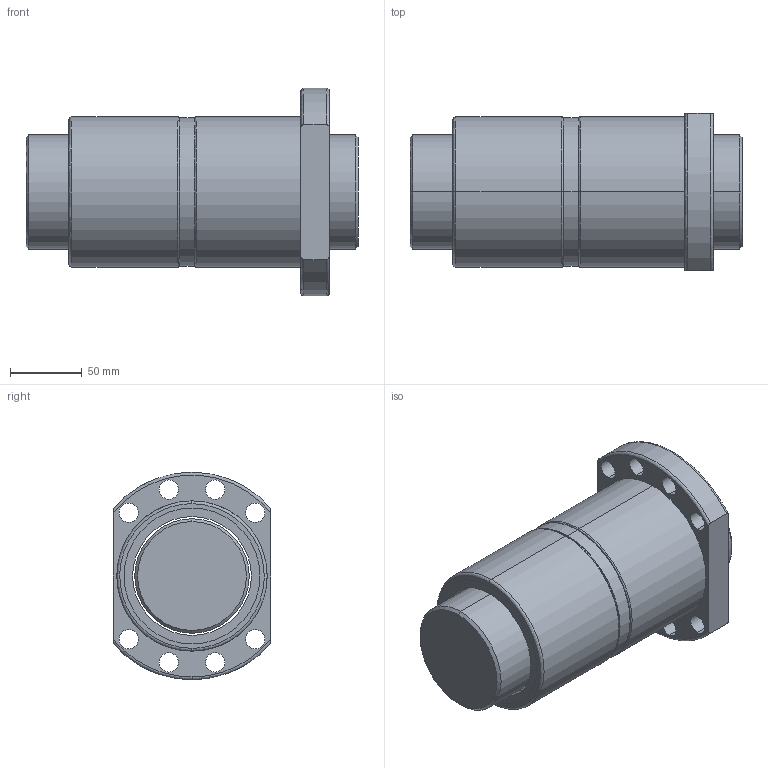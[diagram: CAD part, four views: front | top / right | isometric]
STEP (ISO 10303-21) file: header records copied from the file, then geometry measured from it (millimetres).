
FILE_DESCRIPTION (( 'STEP AP203' ), '1' );
FILE_NAME ('DFU08010.STEP', '2013-01-21T15:34:35', ( 'Halezer' ), ( '' ), 'SwSTEP 2.0', 'SolidWorks 2010', '' );
FILE_SCHEMA (( 'CONFIG_CONTROL_DESIGN' ));
Length unit declared in the file: millimetre
Products named in the file (1): DFU08010
Bounding box: 232 x 110 x 145 mm (x, y, z)
Volume: 1842662.7 mm3; surface area: 227353.6 mm2
Topology: 6 solids, 6 shells, 82 faces, 185 edges, 118 vertices
Faces by surface type: cylinder 45, plane 17, bspline 16, cone 4
Entity records: 2880 total; most frequent: CARTESIAN_POINT 945, DIRECTION 401, ORIENTED_EDGE 370, EDGE_CURVE 185, AXIS2_PLACEMENT_3D 173, VERTEX_POINT 118, EDGE_LOOP 111, CIRCLE 106
